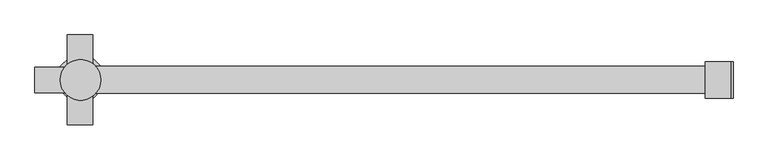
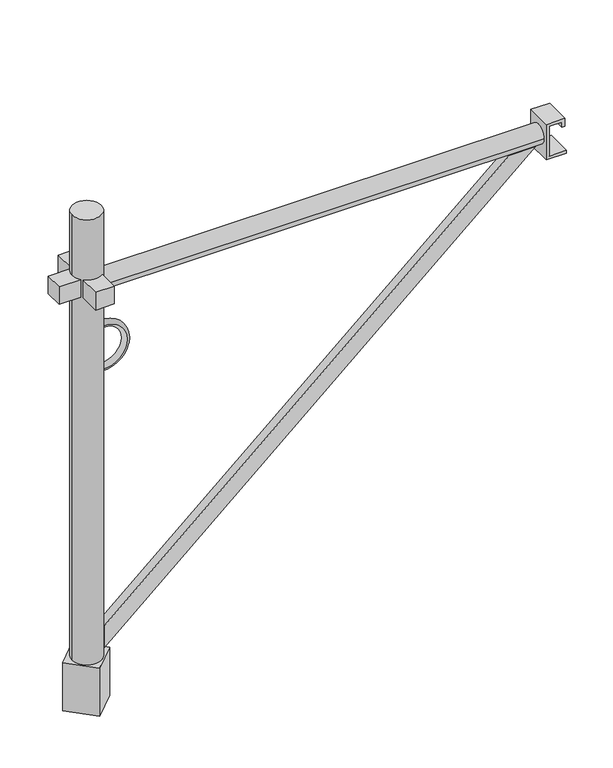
"""IFC4 building model written with IfcOpenShell, lengths in millimetres: proxy geometry, MILLS_TOEC_CADRE_S : entree 1m."""

from ifc_helpers import new_model, si_unit, point, frame, frame_2d, origin, origin_with_axes, place, context, project, spatial, polyline, circle_curve, ellipse_curve, trimmed, segment, composite_curve, outline, extrude, source, transform, mapped, element, save
from ifc_brep_helpers import plane_surface, revolved_surface, advanced_brep


def specialty_equipment_552a99b2(model_context):
    return source(origin(), model_context, "Body", "SolidModel", [
        extrude(outline(polyline([(46.1014202, -1476.3799635), (822.1050295, -591.2242265), (822.1050295, -645.8400153), (93.9823155, -1476.3799635), (46.1014202, -1476.3799635)])), frame((0.0, -9.0, 0.0), z_axis=(0.0, 1.0, 0.0), x_axis=(0.0, 0.0, 1.0)), (0.0, 0.0, 1.0), 18.0),
        extrude(outline(polyline([(800.65, -579.5299635), (800.65, -537.8499635), (806.65, -537.8499635), (806.65, -573.5299635), (871.25, -573.5299635), (871.25, -547.5299635), (860.25, -547.5299635), (860.25, -541.5299635), (877.25, -541.5299635), (877.25, -579.5299635), (800.65, -579.5299635)])), frame((0.0, -26.9, 0.0), z_axis=(0.0, 1.0, 0.0), x_axis=(0.0, 0.0, 1.0)), (0.0, 0.0, 1.0), 53.8),
        advanced_brep(
        [(-1478.6361082, -7.0, 743.0), (-1478.6361082, 7.0, 743.0), (-1478.1654075, -7.0, 649.4331908), (-1478.1654075, 7.0, 649.4331908)],
        [
            (0, 1, circle_curve(frame((-1478.6361082, 0.0, 743.0), z_axis=(-0.9949098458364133, 0.0, -0.10076903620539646), x_axis=(0.0, 1.0, 0.0)), 7.0)),
            (1, 0, circle_curve(frame((-1478.6361082, 0.0, 743.0), z_axis=(-0.9949098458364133, 0.0, -0.10076903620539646), x_axis=(0.0, 1.0, 0.0)), 7.0)),
            (2, 3, circle_curve(frame((-1478.1654075, 0.0, 649.4331908), z_axis=(-0.9958733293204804, 0.0, 0.0907541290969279), x_axis=(0.0, 1.0, 0.0)), 7.0)),
            (3, 2, circle_curve(frame((-1478.1654075, 0.0, 649.4331908), z_axis=(-0.9958733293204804, 0.0, 0.0907541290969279), x_axis=(0.0, 1.0, 0.0)), 7.0)),
            (3, 1, circle_curve(frame((-1473.8999635, 7.0, 696.2392372), z_axis=(0.0, -1.0, 0.0), x_axis=(-0.10076903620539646, 0.0, 0.9949098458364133)), 47.0)),
            (0, 2, circle_curve(frame((-1473.8999635, -7.0, 696.2392372), z_axis=(0.0, 1.0, 0.0), x_axis=(-0.10076903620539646, 0.0, 0.9949098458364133)), 47.0)),
        ],
        [
            plane_surface(frame((-1473.8999635, -96.742949, 696.2392372), z_axis=(-0.9949098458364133, 0.0, -0.10076903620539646), x_axis=(-0.10076903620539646, 0.0, 0.9949098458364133))),
            plane_surface(frame((-1473.8999635, -96.742949, 696.2392372), z_axis=(-0.9958733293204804, 0.0, 0.0907541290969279), x_axis=(-0.0907541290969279, 0.0, -0.9958733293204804))),
            revolved_surface(trimmed(ellipse_curve(frame((-1478.6361082, 0.0, 743.0), z_axis=(0.9949098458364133, 0.0, 0.10076903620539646), x_axis=(0.0, 1.0, 0.0)), 7.0, 7.0), [point((-1478.6361082, 7.0, 743.0))], [point((-1478.6361082, -7.0, 743.0))], True, "CARTESIAN"), (-1473.8999635, -96.742949, 696.2392372), (0.0, -1.0, 0.0)),
            revolved_surface(trimmed(ellipse_curve(frame((-1478.6361082, 0.0, 743.0), z_axis=(0.9949098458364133, 0.0, 0.10076903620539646), x_axis=(0.0, 1.0, 0.0)), 7.0, 7.0), [point((-1478.6361082, -7.0, 743.0))], [point((-1478.6361082, 7.0, 743.0))], True, "CARTESIAN"), (-1473.8999635, -96.742949, 696.2392372), (0.0, -1.0, 0.0)),
        ],
        [
            (0, [[1, 2]]),
            (1, [[3, 4]]),
            (2, [[5, -1, 6, -4]]),
            (3, [[-6, -2, -5, -3]]),
        ],
    ),
        extrude(outline(polyline([(-1488.5299635, 66.75), (-1488.5299635, -66.75), (-1526.5299635, -66.75), (-1526.5299635, -19.0), (-1574.2799635, -19.0), (-1574.2799635, 19.0), (-1526.5299635, 19.0), (-1526.5299635, 66.75), (-1488.5299635, 66.75)])), frame((0.0, 0.0, 831.0), z_axis=(0.0, 0.0, 1.0), x_axis=(1.0, 0.0, 0.0)), (0.0, 0.0, 1.0), 38.0),
        extrude(outline(composite_curve([segment(trimmed(circle_curve(frame_2d((0.0, 842.25)), 20.0), [point((-20.0, 842.25))], [point((20.0, 842.25))], False, "CARTESIAN"), True, "CONTINUOUS"), segment(trimmed(circle_curve(frame_2d((0.0, 842.25)), 20.0), [point((20.0, 842.25))], [point((-20.0, 842.25))], False, "CARTESIAN"), True, "CONTINUOUS")], self_intersect=False)), frame((-1506.5299635, 0.0, 0.0), z_axis=(1.0, 0.0, 0.0), x_axis=(0.0, 1.0, 0.0)), (0.0, 0.0, 1.0), 927.0),
        extrude(outline(polyline([(-1458.4467023, 2.326947), (-1506.5299635, -45.7563141), (-1554.6132246, 2.326947), (-1506.5299635, 50.4102081), (-1458.4467023, 2.326947)])), frame((0.0, 0.0, -69.0), z_axis=(0.0, 0.0, 1.0), x_axis=(1.0, 0.0, 0.0)), (0.0, 0.0, 1.0), 104.0),
        extrude(outline(composite_curve([segment(trimmed(circle_curve(frame_2d((-1506.5299635, 0.0)), 30.15), [point((-1536.6799635, 0.0))], [point((-1476.3799635, 0.0))], False, "CARTESIAN"), True, "CONTINUOUS"), segment(trimmed(circle_curve(frame_2d((-1506.5299635, 0.0)), 30.15), [point((-1476.3799635, 0.0))], [point((-1536.6799635, 0.0))], False, "CARTESIAN"), True, "CONTINUOUS")], self_intersect=False)), origin_with_axes(), (0.0, 0.0, 1.0), 1000.0),
    ])


if __name__ == "__main__":
    model = new_model("IFC4")
    model_context = context("Model", 3, world=origin())
    ifc_project = project(units=[si_unit("LENGTHUNIT", "METRE", prefix="MILLI")], contexts=[model_context])
    site = spatial("IfcSite", under=ifc_project)
    building = spatial("IfcBuilding", under=site)
    placement = place(None, origin())
    specialty_equipment_shape = specialty_equipment_552a99b2(model_context)
    element("IfcBuildingElementProxy", 1, Name="MILLS_TOEC_CADRE_S : entree 1m", ObjectType="MILLS_TOEC_CADRE_S : entree 1m", at=placement, inside=building, context=model_context, shape_type="MappedRepresentation", body=[
        mapped(specialty_equipment_shape, transform((0.0, 0.0, 0.0), x_axis=(1.0, 0.0, 0.0), y_axis=(0.0, 1.0, 0.0), z_axis=(0.0, 0.0, 1.0))),
    ])
    save(model, "model.ifc")
